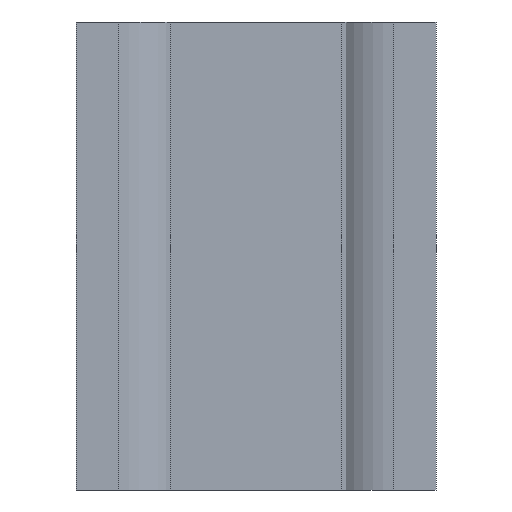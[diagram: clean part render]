
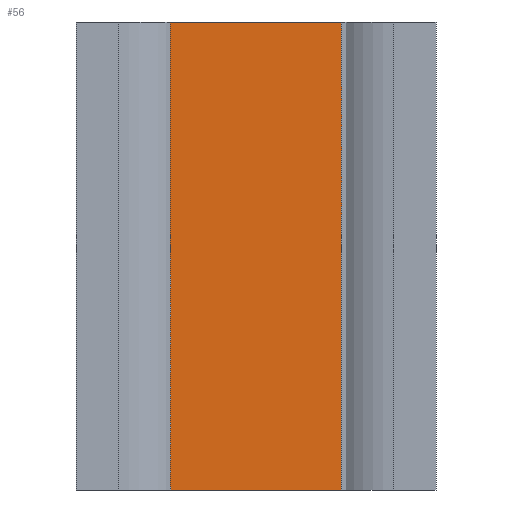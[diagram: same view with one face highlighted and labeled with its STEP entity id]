
A CAD part, front view. The second image highlights one B-rep face of the part: STEP entity #56.
In plain terms, the highlighted planar face has unit normal (0, -1, 0).
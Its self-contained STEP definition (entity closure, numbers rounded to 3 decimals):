
#19 = DIRECTION ( 'NONE',  ( 0., 0., -1. ) ) ;
#26 = FACE_OUTER_BOUND ( 'NONE', #684, .T. ) ;
#35 = ORIENTED_EDGE ( 'NONE', *, *, #182, .T. ) ;
#41 = AXIS2_PLACEMENT_3D ( 'NONE', #245, #251, #19 ) ;
#56 = ADVANCED_FACE ( 'NONE', ( #26 ), #294, .T. ) ;
#93 = VERTEX_POINT ( 'NONE', #509 ) ;
#101 = CARTESIAN_POINT ( 'NONE',  ( -2.375, 0.5, -6.5 ) ) ;
#123 = LINE ( 'NONE', #342, #393 ) ;
#182 = EDGE_CURVE ( 'NONE', #691, #93, #123, .T. ) ;
#200 = VERTEX_POINT ( 'NONE', #101 ) ;
#225 = VECTOR ( 'NONE', #664, 1000. ) ;
#239 = CARTESIAN_POINT ( 'NONE',  ( -2.375, 0.5, -11.654 ) ) ;
#245 = CARTESIAN_POINT ( 'NONE',  ( -2.375, 0.5, -11.654 ) ) ;
#249 = DIRECTION ( 'NONE',  ( 0., 0., 1. ) ) ;
#251 = DIRECTION ( 'NONE',  ( 0., -1., 0. ) ) ;
#263 = CARTESIAN_POINT ( 'NONE',  ( -2.375, 0.5, 6.5 ) ) ;
#274 = CARTESIAN_POINT ( 'NONE',  ( -2.375, 0.5, 6.5 ) ) ;
#284 = VECTOR ( 'NONE', #249, 1000. ) ;
#294 = PLANE ( 'NONE',  #41 ) ;
#325 = EDGE_CURVE ( 'NONE', #581, #93, #434, .T. ) ;
#342 = CARTESIAN_POINT ( 'NONE',  ( 2.375, 0.5, -11.654 ) ) ;
#372 = LINE ( 'NONE', #239, #284 ) ;
#393 = VECTOR ( 'NONE', #396, 1000. ) ;
#396 = DIRECTION ( 'NONE',  ( 0., 0., 1. ) ) ;
#411 = CARTESIAN_POINT ( 'NONE',  ( -2.375, 0.5, -6.5 ) ) ;
#434 = LINE ( 'NONE', #263, #225 ) ;
#488 = DIRECTION ( 'NONE',  ( -1., 0., 0. ) ) ;
#509 = CARTESIAN_POINT ( 'NONE',  ( 2.375, 0.5, 6.5 ) ) ;
#569 = ORIENTED_EDGE ( 'NONE', *, *, #325, .F. ) ;
#572 = ORIENTED_EDGE ( 'NONE', *, *, #624, .F. ) ;
#581 = VERTEX_POINT ( 'NONE', #274 ) ;
#595 = CARTESIAN_POINT ( 'NONE',  ( 2.375, 0.5, -6.5 ) ) ;
#624 = EDGE_CURVE ( 'NONE', #200, #581, #372, .T. ) ;
#631 = ORIENTED_EDGE ( 'NONE', *, *, #670, .F. ) ;
#656 = LINE ( 'NONE', #411, #709 ) ;
#664 = DIRECTION ( 'NONE',  ( 1., 0., 0. ) ) ;
#670 = EDGE_CURVE ( 'NONE', #691, #200, #656, .T. ) ;
#684 = EDGE_LOOP ( 'NONE', ( #631, #35, #569, #572 ) ) ;
#691 = VERTEX_POINT ( 'NONE', #595 ) ;
#709 = VECTOR ( 'NONE', #488, 1000. ) ;
